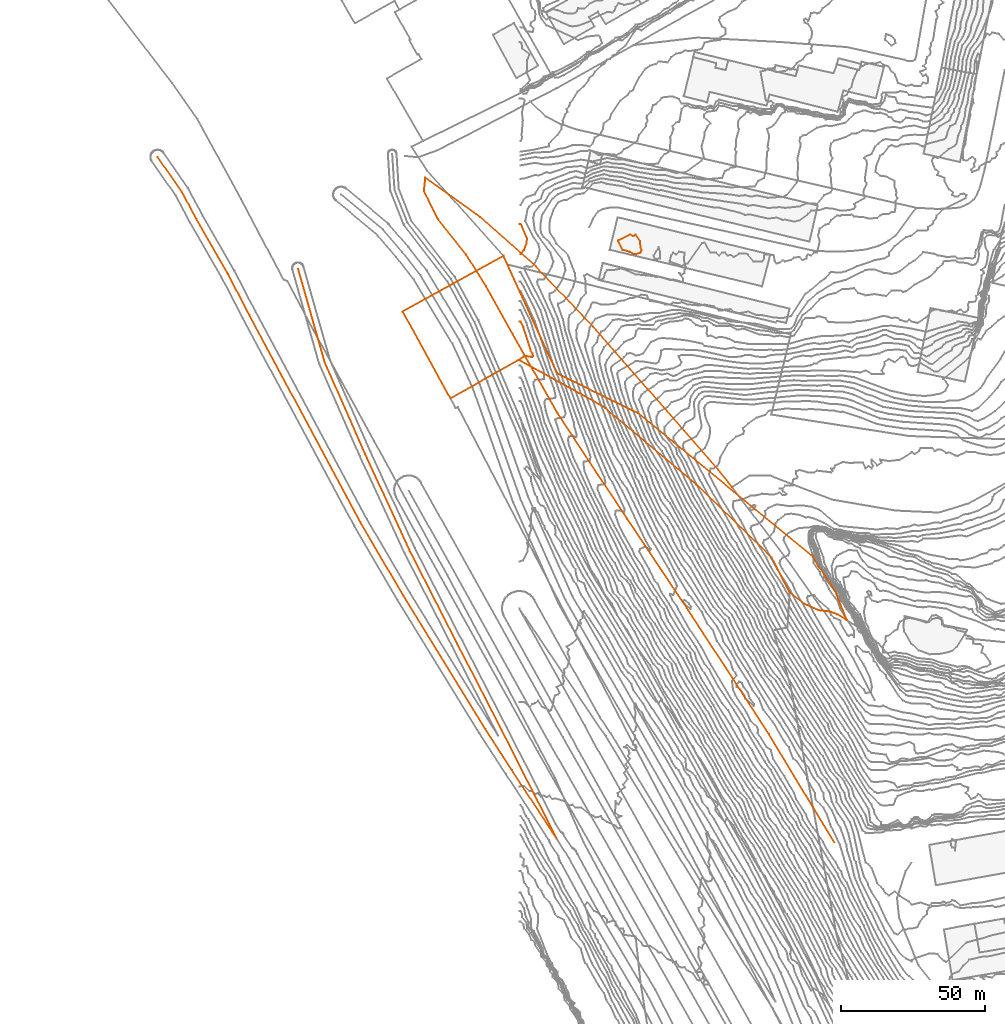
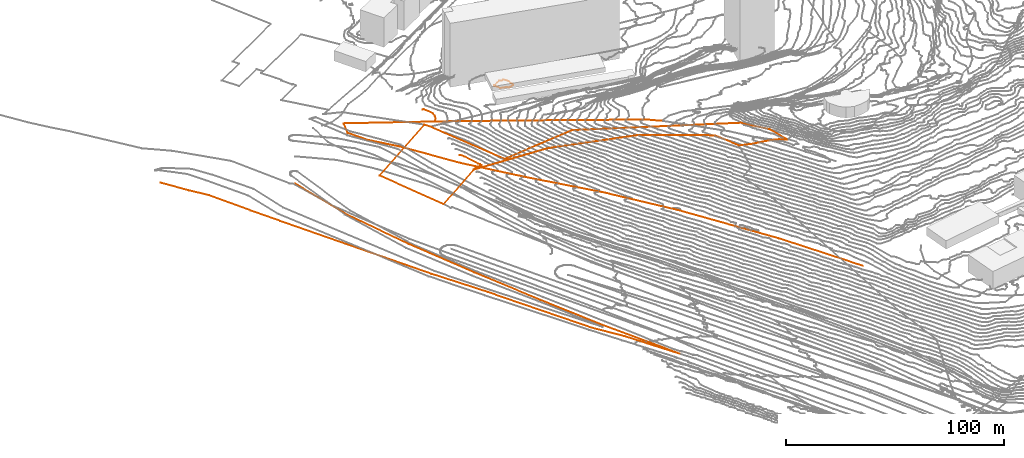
# Not in any storey, part 117 of 419: 8 proxies.
"""IFC2X3 model written with IfcOpenShell, lengths in metres."""

from ifc_helpers import new_model, entity, si_unit, frame, origin_with_axes, place, context, subcontext, project, element, save


model = new_model("IFC2X3")

# Units and contexts
model_context = context("Model", 3, precision=1e-05, world=origin_with_axes())
body_context = subcontext(model_context, "Body", "Model", "MODEL_VIEW")
ifc_project = project(units=[si_unit("AREAUNIT", "SQUARE_METRE"), si_unit("LENGTHUNIT", "METRE")], contexts=[model_context])

# Proxies
proxy_1_placement = place(None, frame((-126.2079795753, 362.1976909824, 4.9), z_axis=(0.0, 0.0, 1.0), x_axis=(1.0, 0.0, 0.0)))
element("IfcBuildingElementProxy", 1, at=proxy_1_placement, Name="Route 230", ObjectType="NOTDEFINED", context=body_context, shape_type="GeometricCurveSet", body=[
    entity("IfcGeometricCurveSet", [entity("IfcPolyline", [entity("IfcCartesianPoint", [138.8, -237.0999999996, -0.8]), entity("IfcCartesianPoint", [123.2000000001, -213.2000000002, 0.0]), entity("IfcCartesianPoint", [114.0, -199.0, -0.6]), entity("IfcCartesianPoint", [85.6000000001, -152.7999999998, 1.3]), entity("IfcCartesianPoint", [70.6000000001, -127.0999999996, 1.2]), entity("IfcCartesianPoint", [31.9, -55.0, 0.7]), entity("IfcCartesianPoint", [24.5, -40.7000000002, 0.5]), entity("IfcCartesianPoint", [13.5, -21.5999999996, 1.3]), entity("IfcCartesianPoint", [8.4, -12.0, 0.0]), entity("IfcCartesianPoint", [0.0, 0.0, 0.0])])]),
])
proxy_2_placement = place(None, frame((-33.6079795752, 350.3976909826, 7.6), z_axis=(0.0, 0.0, 1.0), x_axis=(1.0, 0.0, 0.0)))
element("IfcBuildingElementProxy", 2, at=proxy_2_placement, Name="Route 233", ObjectType="NOTDEFINED", context=body_context, shape_type="GeometricCurveSet", body=[
    entity("IfcGeometricCurveSet", [entity("IfcPolyline", [entity("IfcCartesianPoint", [142.7999999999, -226.7000000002, 12.8]), entity("IfcCartesianPoint", [120.0, -188.9000000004, 13.3]), entity("IfcCartesianPoint", [91.3999999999, -144.9000000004, 12.6]), entity("IfcCartesianPoint", [70.7, -114.0, 10.8]), entity("IfcCartesianPoint", [46.5, -77.2999999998, 6.5]), entity("IfcCartesianPoint", [30.7999999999, -49.5999999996, 2.5]), entity("IfcCartesianPoint", [21.6, -33.0999999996, 1.1]), entity("IfcCartesianPoint", [14.7, -22.0999999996, 0.6]), entity("IfcCartesianPoint", [4.8999999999, -9.7999999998, 0.3]), entity("IfcCartesianPoint", [0.0, 0.0, 0.0]), entity("IfcCartesianPoint", [0.5, 4.5999999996, 2.4])])]),
])
proxy_3_placement = place(None, frame((-33.1079795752, 354.9976909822, 10.0), z_axis=(0.0, 0.0, 1.0), x_axis=(1.0, 0.0, 0.0)))
element("IfcBuildingElementProxy", 3, at=proxy_3_placement, Name="Route 246", ObjectType="NOTDEFINED", context=body_context, shape_type="GeometricCurveSet", body=[
    entity("IfcGeometricCurveSet", [entity("IfcPolyline", [entity("IfcCartesianPoint", [0.0, 0.0, 0.0]), entity("IfcCartesianPoint", [19.1, -13.6999999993, 2.2]), entity("IfcCartesianPoint", [38.5, -30.8999999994, 6.4]), entity("IfcCartesianPoint", [58.3999999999, -51.7999999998, 12.5]), entity("IfcCartesianPoint", [101.8999999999, -101.5, 28.0]), entity("IfcCartesianPoint", [106.7, -107.5999999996, 29.3])])]),
])
proxy_4_placement = place(None, frame((-77.4079795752, 323.4976909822, 11.0), z_axis=(0.0, 0.0, 1.0), x_axis=(1.0, 0.0, 0.0)))
element("IfcBuildingElementProxy", 4, at=proxy_4_placement, Name="Route 261", ObjectType="NOTDEFINED", context=body_context, shape_type="GeometricCurveSet", body=[
    entity("IfcGeometricCurveSet", [entity("IfcPolyline", [entity("IfcCartesianPoint", [0.0, 0.0, 0.0]), entity("IfcCartesianPoint", [9.3, -32.5999999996, -1.3]), entity("IfcCartesianPoint", [23.4, -64.5999999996, -3.1]), entity("IfcCartesianPoint", [38.9, -98.1999999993, -4.2]), entity("IfcCartesianPoint", [55.4, -130.5, -5.8]), entity("IfcCartesianPoint", [70.9, -160.5999999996, -7.0]), entity("IfcCartesianPoint", [90.0, -198.3999999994, -6.9])])]),
])
proxy_5_placement = place(None, frame((-40.9479795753, 308.4876909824, 11.6997000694), z_axis=(0.0, 0.0, 1.0), x_axis=(1.0, 0.0, 0.0)))
element("IfcBuildingElementProxy", 5, at=proxy_5_placement, Name="Cadastre 334", ObjectType="NOTDEFINED", context=body_context, shape_type="GeometricCurveSet", body=[
    entity("IfcGeometricCurveSet", [entity("IfcPolyline", [entity("IfcCartesianPoint", [134.5700000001, -97.7699999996, 28.9984271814]), entity("IfcCartesianPoint", [128.3500000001, -85.6899999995, 29.5352206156]), entity("IfcCartesianPoint", [102.03, -60.1600000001, 23.3417996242]), entity("IfcCartesianPoint", [69.7400000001, -33.1299999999, 10.8872595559]), entity("IfcCartesianPoint", [40.3100000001, -16.8700000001, -0.642900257]), entity("IfcCartesianPoint", [16.5800000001, -30.2299999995, -3.6163003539]), entity("IfcCartesianPoint", [0.0, 0.0, 0.0]), entity("IfcCartesianPoint", [35.0, 19.3500000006, 4.4654996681]), entity("IfcCartesianPoint", [36.41, 16.2600000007, 4.7858002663]), entity("IfcCartesianPoint", [53.8200000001, -21.7000000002, 3.5717118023]), entity("IfcCartesianPoint", [81.8300000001, -35.4399999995, 18.2756454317]), entity("IfcCartesianPoint", [142.54, -85.2399999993, 31.3407986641]), entity("IfcCartesianPoint", [150.66, -97.79, 32.446458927]), entity("IfcCartesianPoint", [154.42, -107.3999999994, 31.305732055]), entity("IfcCartesianPoint", [151.2400000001, -105.3999999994, 31.2397391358]), entity("IfcCartesianPoint", [148.52, -104.3700000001, 31.2777172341]), entity("IfcCartesianPoint", [144.6000000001, -103.9399999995, 31.6965813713]), entity("IfcCartesianPoint", [139.55, -101.71, 30.6739957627]), entity("IfcCartesianPoint", [134.5700000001, -97.7699999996, 28.9984271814])])]),
])
proxy_6_placement = place(None, frame((-0.4079795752, 328.3643568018, 16.0), z_axis=(0.0, 0.0, 1.0), x_axis=(1.0, 0.0, 0.0)))
element("IfcBuildingElementProxy", 6, at=proxy_6_placement, Name="Contour 16.0 m", ObjectType="NOTDEFINED", context=body_context, shape_type="GeometricCurveSet", body=[
    entity("IfcGeometricCurveSet", [entity("IfcPolyline", [entity("IfcCartesianPoint", [0.0, 0.0, 0.0]), entity("IfcCartesianPoint", [0.5, 0.0, 0.0]), entity("IfcCartesianPoint", [1.6176496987, 1.5333341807, 0.0]), entity("IfcCartesianPoint", [2.5, 3.8190523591, 0.0]), entity("IfcCartesianPoint", [2.7068980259, 5.5333341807, 0.0]), entity("IfcCartesianPoint", [0.5, 10.5768135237, 0.0]), entity("IfcCartesianPoint", [0.0, 10.5768135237, 0.0])])]),
])
proxy_7_placement = place(None, frame((34.008685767, 332.8976909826, 21.0), z_axis=(0.0, 0.0, 1.0), x_axis=(1.0, 0.0, 0.0)))
element("IfcBuildingElementProxy", 7, at=proxy_7_placement, Name="Contour 21.0 m", ObjectType="NOTDEFINED", context=body_context, shape_type="GeometricCurveSet", body=[
    entity("IfcGeometricCurveSet", [entity("IfcPolyline", [entity("IfcCartesianPoint", [7.7500013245, -4.0, 0.0]), entity("IfcCartesianPoint", [6.0833346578, -4.5000045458, 0.0]), entity("IfcCartesianPoint", [5.0833346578, -4.4090928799, 0.0]), entity("IfcCartesianPoint", [4.0833346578, -3.7083343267, 0.0]), entity("IfcCartesianPoint", [1.5448719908, -3.0, 0.0]), entity("IfcCartesianPoint", [0.0, 0.0, 0.0]), entity("IfcCartesianPoint", [0.0833346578, 0.333333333, 0.0]), entity("IfcCartesianPoint", [4.0833346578, 2.333333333, 0.0]), entity("IfcCartesianPoint", [5.0833346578, 1.75, 0.0]), entity("IfcCartesianPoint", [6.0833346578, 2.25, 0.0]), entity("IfcCartesianPoint", [7.583359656, 0.0, 0.0]), entity("IfcCartesianPoint", [7.7083257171, -2.0, 0.0]), entity("IfcCartesianPoint", [8.0833513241, -3.0, 0.0]), entity("IfcCartesianPoint", [7.7500013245, -4.0, 0.0])])]),
])
proxy_8_placement = place(None, frame((-0.4079795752, 292.0226939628, 11.0), z_axis=(0.0, 0.0, 1.0), x_axis=(1.0, 0.0, 0.0)))
element("IfcBuildingElementProxy", 8, at=proxy_8_placement, Name="Contour 11.0 m", ObjectType="NOTDEFINED", context=body_context, shape_type="GeometricCurveSet", body=[
    entity("IfcGeometricCurveSet", [entity("IfcPolyline", [entity("IfcCartesianPoint", [0.0, 0.0, 0.0]), entity("IfcCartesianPoint", [0.5, 0.0, 0.0]), entity("IfcCartesianPoint", [1.5, 0.6931756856, 0.0]), entity("IfcCartesianPoint", [2.5, 0.8750113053, 0.0]), entity("IfcCartesianPoint", [4.5, 0.5271705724, 0.0]), entity("IfcCartesianPoint", [4.7051278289, 0.8749970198, 0.0]), entity("IfcCartesianPoint", [4.5909096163, 1.8749970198, 0.0]), entity("IfcCartesianPoint", [3.9871791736, 2.8749970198, 0.0]), entity("IfcCartesianPoint", [1.4523813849, 10.8749970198, 0.0]), entity("IfcCartesianPoint", [0.5, 12.8749936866, 0.0]), entity("IfcCartesianPoint", [0.0, 12.8749936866, 0.0])])]),
])

save(model, "model.ifc")
